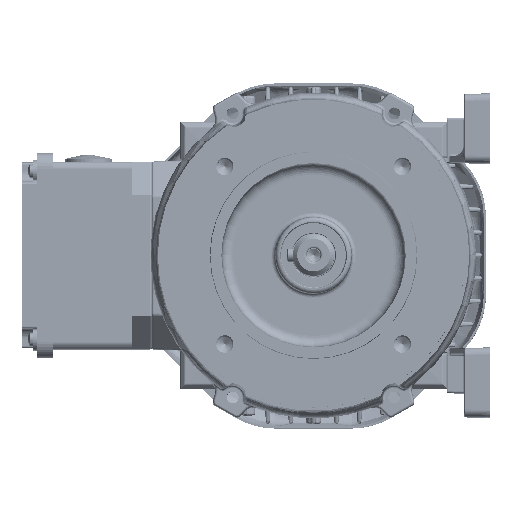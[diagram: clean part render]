
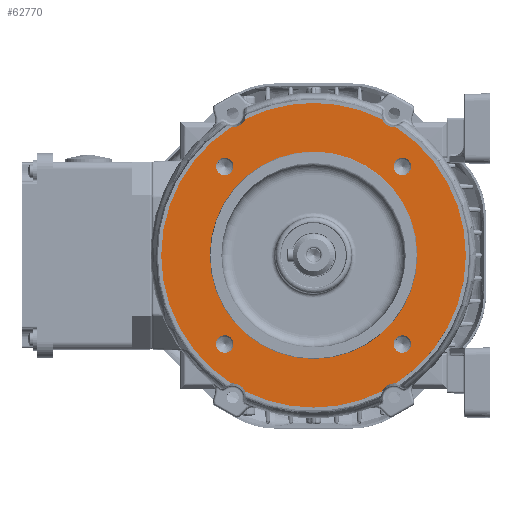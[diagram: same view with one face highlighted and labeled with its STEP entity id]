
A CAD part, top view. The second image highlights one B-rep face of the part: STEP entity #62770.
In plain terms, the highlighted planar face has unit normal (0, 0, 1).
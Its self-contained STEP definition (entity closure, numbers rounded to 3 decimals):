
#19050=FACE_BOUND('',#85717,.T.);
#19051=FACE_BOUND('',#85718,.T.);
#19052=FACE_BOUND('',#85719,.T.);
#19053=FACE_BOUND('',#85720,.T.);
#19054=FACE_BOUND('',#85721,.T.);
#19055=FACE_BOUND('',#85722,.T.);
#62770=ADVANCED_FACE('',(#19050,#19051,#19052,#19053,#19054,#19055),#66337,
 .T.);
#66337=PLANE('',#219711);
#85717=EDGE_LOOP('',(#124427));
#85718=EDGE_LOOP('',(#124428));
#85719=EDGE_LOOP('',(#124429));
#85720=EDGE_LOOP('',(#124430));
#85721=EDGE_LOOP('',(#124431));
#85722=EDGE_LOOP('',(#124432,#124433,#124434,#124435,#124436,#124437,#124438,
#124439));
#124427=ORIENTED_EDGE('',*,*,#169151,.T.);
#124428=ORIENTED_EDGE('',*,*,#169152,.T.);
#124429=ORIENTED_EDGE('',*,*,#169153,.T.);
#124430=ORIENTED_EDGE('',*,*,#169154,.T.);
#124431=ORIENTED_EDGE('',*,*,#168083,.T.);
#124432=ORIENTED_EDGE('',*,*,#169148,.T.);
#124433=ORIENTED_EDGE('',*,*,#168098,.T.);
#124434=ORIENTED_EDGE('',*,*,#169146,.T.);
#124435=ORIENTED_EDGE('',*,*,#168127,.F.);
#124436=ORIENTED_EDGE('',*,*,#169144,.T.);
#124437=ORIENTED_EDGE('',*,*,#168112,.T.);
#124438=ORIENTED_EDGE('',*,*,#169149,.T.);
#124439=ORIENTED_EDGE('',*,*,#168085,.F.);
#146424=VERTEX_POINT('',#396175);
#146426=VERTEX_POINT('',#396182);
#146427=VERTEX_POINT('',#396184);
#146439=VERTEX_POINT('',#396243);
#146440=VERTEX_POINT('',#396244);
#146453=VERTEX_POINT('',#396308);
#146454=VERTEX_POINT('',#396309);
#146468=VERTEX_POINT('',#396377);
#146469=VERTEX_POINT('',#396379);
#147002=VERTEX_POINT('',#404337);
#147003=VERTEX_POINT('',#404339);
#147004=VERTEX_POINT('',#404341);
#147005=VERTEX_POINT('',#404343);
#168083=EDGE_CURVE('',#146424,#146424,#181581,.T.);
#168085=EDGE_CURVE('',#146426,#146427,#181582,.T.);
#168098=EDGE_CURVE('',#146439,#146440,#181586,.T.);
#168112=EDGE_CURVE('',#146453,#146454,#181590,.T.);
#168127=EDGE_CURVE('',#146468,#146469,#181594,.T.);
#169144=EDGE_CURVE('',#146468,#146453,#182078,.T.);
#169146=EDGE_CURVE('',#146440,#146469,#182080,.T.);
#169148=EDGE_CURVE('',#146426,#146439,#182082,.T.);
#169149=EDGE_CURVE('',#146454,#146427,#182083,.T.);
#169151=EDGE_CURVE('',#147002,#147002,#182085,.T.);
#169152=EDGE_CURVE('',#147003,#147003,#182086,.T.);
#169153=EDGE_CURVE('',#147004,#147004,#182087,.T.);
#169154=EDGE_CURVE('',#147005,#147005,#182088,.T.);
#181581=CIRCLE('',#218918,47.5);
#181582=CIRCLE('',#218920,6.329);
#181586=CIRCLE('',#218925,6.329);
#181590=CIRCLE('',#218930,6.329);
#181594=CIRCLE('',#218935,6.329);
#182078=CIRCLE('',#219693,69.75);
#182080=CIRCLE('',#219697,69.75);
#182082=CIRCLE('',#219701,69.75);
#182083=CIRCLE('',#219703,69.75);
#182085=CIRCLE('',#219707,4.);
#182086=CIRCLE('',#219708,4.);
#182087=CIRCLE('',#219709,4.);
#182088=CIRCLE('',#219710,4.);
#218918=AXIS2_PLACEMENT_3D('',#396174,#253668,#253669);
#218920=AXIS2_PLACEMENT_3D('',#396183,#253672,#253673);
#218925=AXIS2_PLACEMENT_3D('',#396242,#253682,#253683);
#218930=AXIS2_PLACEMENT_3D('',#396307,#253692,#253693);
#218935=AXIS2_PLACEMENT_3D('',#396378,#253702,#253703);
#219693=AXIS2_PLACEMENT_3D('',#404322,#255333,#255334);
#219697=AXIS2_PLACEMENT_3D('',#404326,#255341,#255342);
#219701=AXIS2_PLACEMENT_3D('',#404330,#255349,#255350);
#219703=AXIS2_PLACEMENT_3D('',#404332,#255353,#255354);
#219707=AXIS2_PLACEMENT_3D('',#404336,#255361,#255362);
#219708=AXIS2_PLACEMENT_3D('',#404338,#255363,#255364);
#219709=AXIS2_PLACEMENT_3D('',#404340,#255365,#255366);
#219710=AXIS2_PLACEMENT_3D('',#404342,#255367,#255368);
#219711=AXIS2_PLACEMENT_3D('',#404344,#255369,#255370);
#253668=DIRECTION('',(0.,0.,-1.));
#253669=DIRECTION('',(1.,0.,0.));
#253672=DIRECTION('',(0.,0.,1.));
#253673=DIRECTION('',(1.,0.,0.));
#253682=DIRECTION('',(0.,0.,-1.));
#253683=DIRECTION('',(1.,0.,0.));
#253692=DIRECTION('',(0.,0.,-1.));
#253693=DIRECTION('',(1.,0.,0.));
#253702=DIRECTION('',(0.,0.,1.));
#253703=DIRECTION('',(1.,0.,0.));
#255333=DIRECTION('',(0.,0.,1.));
#255334=DIRECTION('',(1.,0.,0.));
#255341=DIRECTION('',(0.,0.,1.));
#255342=DIRECTION('',(1.,0.,0.));
#255349=DIRECTION('',(0.,0.,1.));
#255350=DIRECTION('',(1.,0.,0.));
#255353=DIRECTION('',(0.,0.,1.));
#255354=DIRECTION('',(1.,0.,0.));
#255361=DIRECTION('',(0.,0.,-1.));
#255362=DIRECTION('',(1.,0.,0.));
#255363=DIRECTION('',(0.,0.,-1.));
#255364=DIRECTION('',(1.,0.,0.));
#255365=DIRECTION('',(0.,0.,-1.));
#255366=DIRECTION('',(1.,0.,0.));
#255367=DIRECTION('',(0.,0.,-1.));
#255368=DIRECTION('',(1.,0.,0.));
#255369=DIRECTION('',(0.,0.,1.));
#255370=DIRECTION('',(1.,0.,0.));
#396174=CARTESIAN_POINT('',(0.,0.,69.5));
#396175=CARTESIAN_POINT('',(47.5,0.,69.5));
#396182=CARTESIAN_POINT('',(-37.665,58.706,69.5));
#396183=CARTESIAN_POINT('',(-37.,65.,69.5));
#396184=CARTESIAN_POINT('',(-31.248,62.359,69.5));
#396242=CARTESIAN_POINT('',(-37.,-65.,69.5));
#396243=CARTESIAN_POINT('',(-37.665,-58.706,69.5));
#396244=CARTESIAN_POINT('',(-31.248,-62.359,69.5));
#396307=CARTESIAN_POINT('',(37.,65.,69.5));
#396308=CARTESIAN_POINT('',(37.665,58.706,69.5));
#396309=CARTESIAN_POINT('',(31.248,62.359,69.5));
#396377=CARTESIAN_POINT('',(37.665,-58.706,69.5));
#396378=CARTESIAN_POINT('',(37.,-65.,69.5));
#396379=CARTESIAN_POINT('',(31.248,-62.359,69.5));
#404322=CARTESIAN_POINT('',(0.,0.,69.5));
#404326=CARTESIAN_POINT('',(0.,0.,69.5));
#404330=CARTESIAN_POINT('',(0.,0.,69.5));
#404332=CARTESIAN_POINT('',(0.,0.,69.5));
#404336=CARTESIAN_POINT('',(40.659,-40.659,69.5));
#404337=CARTESIAN_POINT('',(44.659,-40.659,69.5));
#404338=CARTESIAN_POINT('',(40.659,40.659,69.5));
#404339=CARTESIAN_POINT('',(44.659,40.659,69.5));
#404340=CARTESIAN_POINT('',(-40.659,-40.659,69.5));
#404341=CARTESIAN_POINT('',(-36.659,-40.659,69.5));
#404342=CARTESIAN_POINT('',(-40.659,40.659,69.5));
#404343=CARTESIAN_POINT('',(-36.659,40.659,69.5));
#404344=CARTESIAN_POINT('',(0.,0.,69.5));
